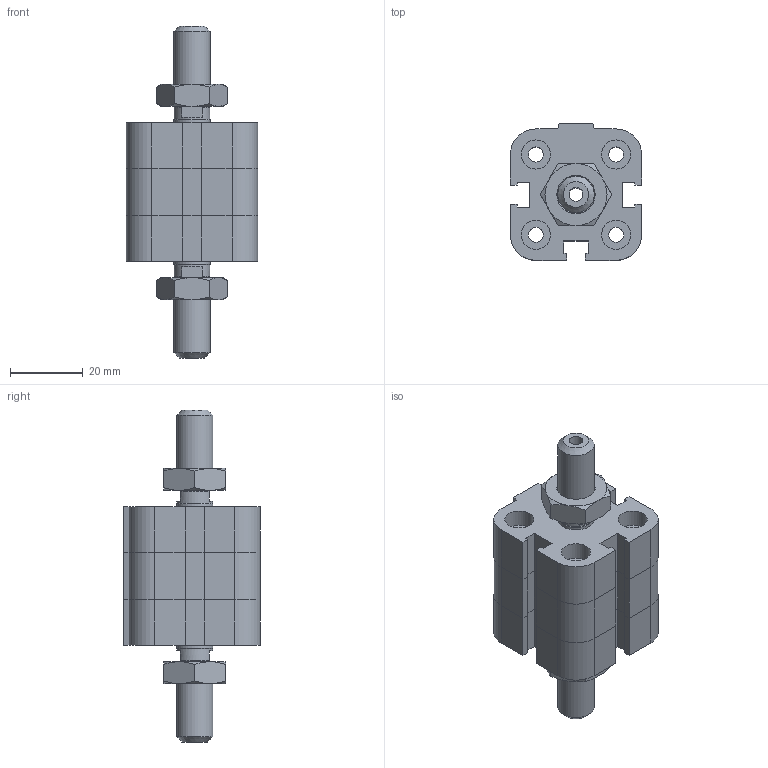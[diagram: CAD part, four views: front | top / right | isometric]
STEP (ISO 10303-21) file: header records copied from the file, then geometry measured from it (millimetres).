
FILE_DESCRIPTION((''),'2;1');
FILE_NAME('I:\Area Tecnica\Disegni\VARIE-3D\Componenti\EUROPE\15##_###_####_05_#\1581_20_0000_05_1.iam.stp','2009-04-20T14:59:42',(''),(''),'Autodesk Inventor 2009','Autodesk Inventor 2009','');
FILE_SCHEMA(('AUTOMOTIVE_DESIGN { 1 0 10303 214 1 1 1 1 }'));
Length unit declared in the file: millimetre
Products named in the file (4): 1581_20_0000_05_1; 1581_20_0000_03_1_C; 1561_20_0000_05_1_S; DBFM10
Assembly tree (4 placements, depth 2):
  1581_20_0000_05_1
    1581_20_0000_03_1_C
    1561_20_0000_05_1_S
    DBFM10  x2
Bounding box: 36 x 37.5 x 91 mm (x, y, z)
Volume: 45969.7 mm3; surface area: 18287.5 mm2
Topology: 4 solids, 4 shells, 211 faces, 466 edges, 275 vertices
Faces by surface type: plane 125, cone 35, bspline 30, cylinder 21
Full cylindrical faces by diameter (mm): 7.9 x1, 8 x4, 9.8 x2, 10 x2
Entity records: 5301 total; most frequent: CARTESIAN_POINT 1204, DIRECTION 774, ORIENTED_EDGE 760, EDGE_CURVE 380, AXIS2_PLACEMENT_3D 258, VECTOR 258, LINE 258, EDGE_LOOP 246
